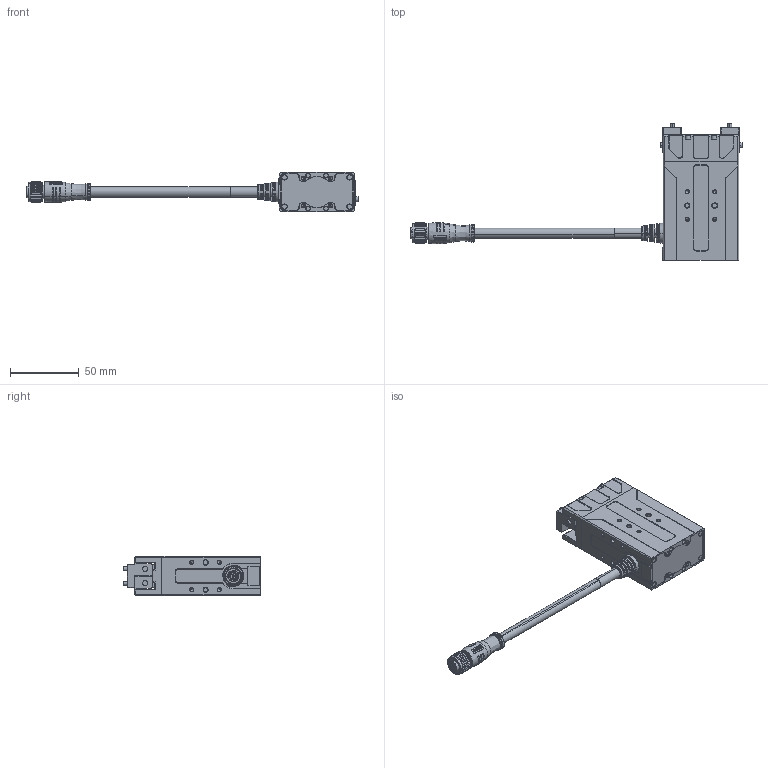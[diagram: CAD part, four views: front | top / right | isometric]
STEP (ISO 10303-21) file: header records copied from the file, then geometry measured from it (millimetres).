
FILE_DESCRIPTION (( 'STEP AP214' ), '1' );
FILE_NAME ('PGE-50-26-O-S.STEP', '2023-07-19T03:24:09', ( '' ), ( '' ), 'SwSTEP 2.0', 'SolidWorks 2020', '' );
FILE_SCHEMA (( 'AUTOMOTIVE_DESIGN' ));
Length unit declared in the file: millimetre
Products named in the file (3): PGE-50-26-O-S; 耜堤褲; PGE50忒硌價釱
Assembly tree (3 placements, depth 2):
  PGE-50-26-O-S
    耜堤褲
    PGE50忒硌價釱  x2
Bounding box: 242.2 x 99.8 x 29 mm (x, y, z)
Volume: 12225.4 mm3; surface area: 45916.4 mm2
Topology: 6 solids, 19 shells, 1855 faces, 4591 edges, 2818 vertices
Faces by surface type: plane 794, cylinder 420, cone 357, bspline 283, sphere 1
Full cylindrical faces by diameter (mm): 11.1 x3
Entity records: 86098 total; most frequent: CARTESIAN_POINT 27725, ORIENTED_EDGE 8548, DIRECTION 7403, EDGE_CURVE 4278, VERTEX_POINT 2673, AXIS2_PLACEMENT_3D 2620, VECTOR 2163, LINE 2163
